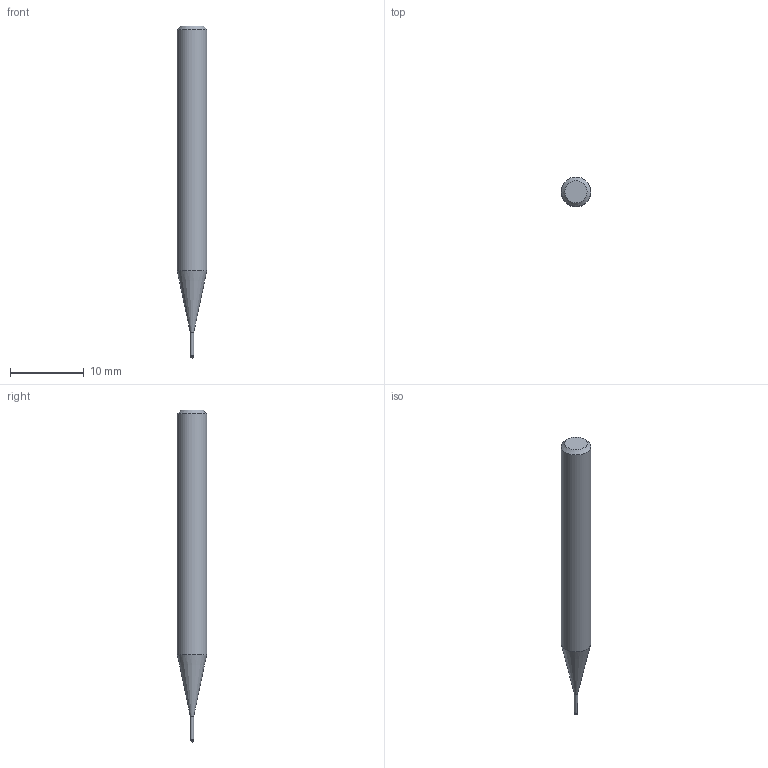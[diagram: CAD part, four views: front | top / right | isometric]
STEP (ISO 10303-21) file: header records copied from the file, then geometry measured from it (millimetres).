
FILE_DESCRIPTION((''),'2;1');
FILE_NAME('C:\Users\nsx150\AppData\Local\Temp\Mastercam 2021\ARV7HD45SN\TEMP.step','2023-06-13T16:33:30',(''),(''),'STEP Write','Mastercam 2021 ... CNC Software, Inc.','');
FILE_SCHEMA(('AUTOMOTIVE_DESIGN'));
Length unit declared in the file: millimetre
Products named in the file (1): None
Bounding box: 4 x 4 x 45 mm (x, y, z)
Volume: 455.4 mm3; surface area: 490.5 mm2
Topology: 2 solids, 2 shells, 9 faces, 14 edges, 8 vertices
Faces by surface type: plane 3, cylinder 3, cone 2, sphere 1
Full cylindrical faces by diameter (mm): 0.46 x1, 0.5 x1, 4 x1
Entity records: 211 total; most frequent: DIRECTION 36, CARTESIAN_POINT 25, AXIS2_PLACEMENT_3D 18, ORIENTED_EDGE 14, EDGE_LOOP 14, STYLED_ITEM 12, ADVANCED_FACE 9, FACE_BOUND 8
